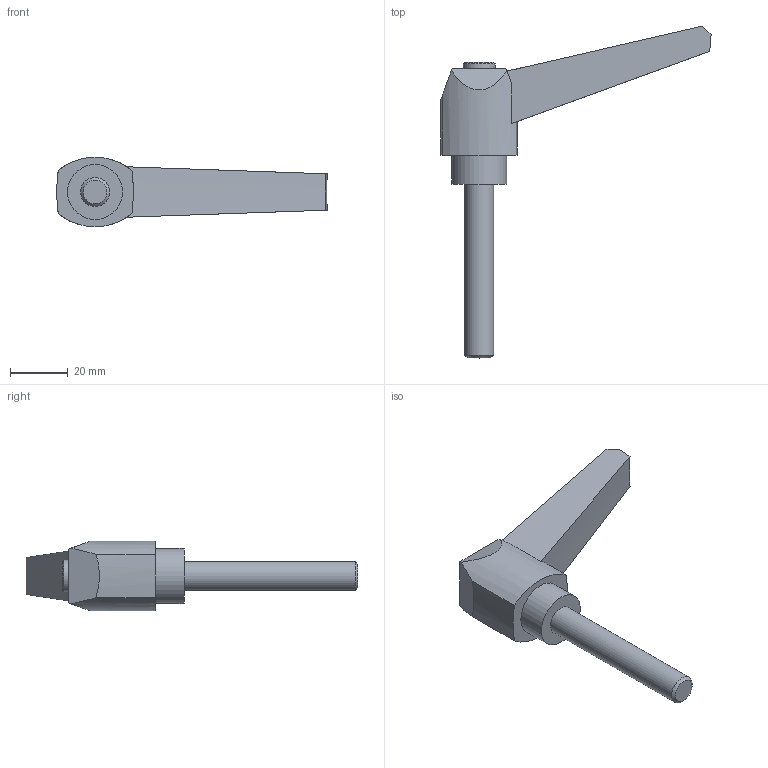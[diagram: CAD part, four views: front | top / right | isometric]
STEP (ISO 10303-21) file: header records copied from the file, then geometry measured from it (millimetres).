
FILE_DESCRIPTION( ( 'STEP AP203' ), '1' );
FILE_NAME( 'C:/Temp/Ganter_Step_05_03_2020/data/2_1/gn_500/gn_500_ms/Adjustable hand lever GN 500-80-M10-60-SW.stp', '2020-03-05T11:26:37', ( 'License CC BY-ND 4.0' ), ( 'CADENAS' ), ' ', 'PARTsolutions', ' ' );
FILE_SCHEMA( ( 'CONFIG_CONTROL_DESIGN' ) );
Length unit declared in the file: millimetre
Products named in the file (1): _Adjustable hand lever GN 500-80-M10-60-SW
Bounding box: 93.3 x 114.58 x 24 mm (x, y, z)
Volume: 37453.1 mm3; surface area: 9766.9 mm2
Topology: 1 solids, 1 shells, 24 faces, 56 edges, 37 vertices
Faces by surface type: plane 11, cylinder 7, cone 6
Full cylindrical faces by diameter (mm): 10 x1, 11 x1, 19 x1
Entity records: 709 total; most frequent: CARTESIAN_POINT 124, DIRECTION 118, ORIENTED_EDGE 100, EDGE_CURVE 50, AXIS2_PLACEMENT_3D 47, VERTEX_POINT 36, EDGE_LOOP 32, FACE_OUTER_BOUND 27
